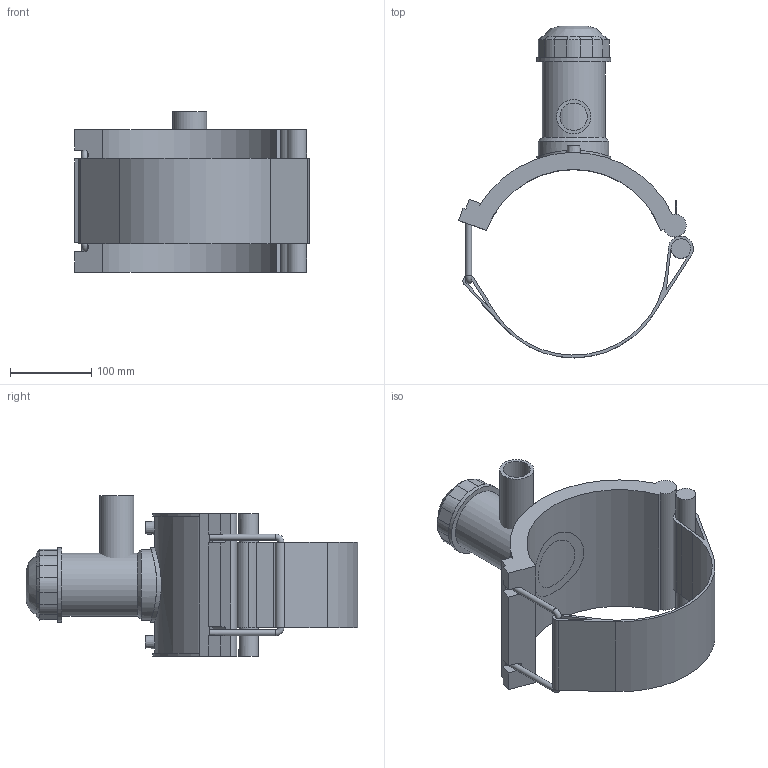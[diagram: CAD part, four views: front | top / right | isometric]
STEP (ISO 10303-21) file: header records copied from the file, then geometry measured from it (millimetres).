
FILE_DESCRIPTION(/* description */ ('PLASSON TAPPING SADDLE 8''''DIPS x 1 1/4''''IPS'),/* implementation_level */ '2;1');
FILE_NAME(/* name */ 'C:\Dropbox\KIMPROJECTS-Inventor 2019\99-16-3568-Processing Inch\ASTM ElectroFusion 2021\5963DBP_5963BUP\5963DBP3080013.ipt.stp',/* time_stamp */ '2021-08-30T09:58:45+03:00',/* author */ ('KIM'),/* organization */ (''),/* preprocessor_version */ 'ST-DEVELOPER v17.2',/* originating_system */ 'Autodesk Inventor 2019',/* authorisation */ '');
FILE_SCHEMA (('AUTOMOTIVE_DESIGN { 1 0 10303 214 3 1 1 }'));
Length unit declared in the file: inch
Products named in the file (1): 5963DBP3080013
Bounding box: 289.75 x 409.37 x 197.99 mm (x, y, z)
Volume: 2008920.4 mm3; surface area: 389228 mm2
Topology: 3 solids, 3 shells, 125 faces, 315 edges, 206 vertices
Faces by surface type: plane 69, cylinder 40, cone 13, torus 2, bspline 1
Full cylindrical faces by diameter (mm): 4 x2, 7.325 x2, 10 x2, 24.123 x1, 33.68 x1, 42.1 x1, 64.092 x1, 77.826 x1, 86.982 x1, 91.56 x2
Entity records: 4185 total; most frequent: CARTESIAN_POINT 1043, DIRECTION 661, ORIENTED_EDGE 632, EDGE_CURVE 316, AXIS2_PLACEMENT_3D 240, VERTEX_POINT 206, LINE 181, VECTOR 181
